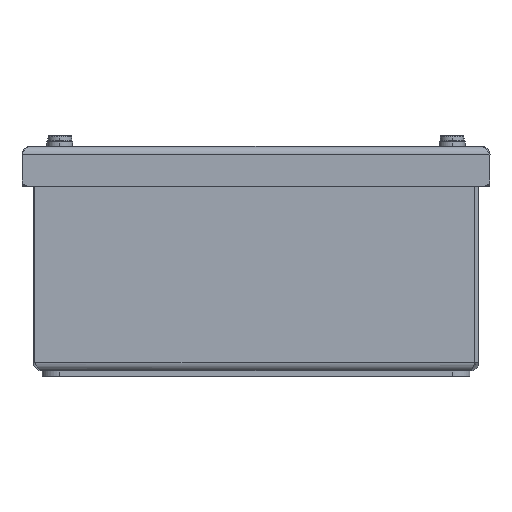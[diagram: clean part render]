
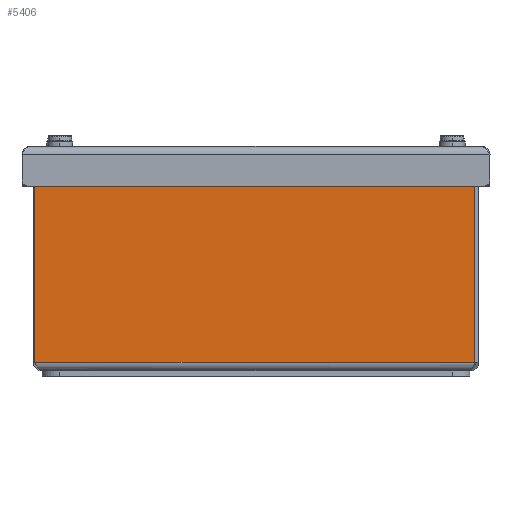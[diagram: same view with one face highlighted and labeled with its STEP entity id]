
A CAD part, left-side view. The second image highlights one B-rep face of the part: STEP entity #5406.
In plain terms, the highlighted planar face has unit normal (-1, 0, 0).
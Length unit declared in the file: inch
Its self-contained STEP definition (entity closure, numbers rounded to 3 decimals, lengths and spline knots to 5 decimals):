
#268=DIRECTION('',(0.,-1.,0.));
#269=VECTOR('',#268,6.168);
#270=CARTESIAN_POINT('',(0.,6.228,0.12));
#271=LINE('',#270,#269);
#1663=DIRECTION('',(0.,-1.,0.));
#1664=VECTOR('',#1663,5.47175);
#1665=CARTESIAN_POINT('',(0.,6.228,2.888));
#1666=LINE('',#1665,#1664);
#1751=DIRECTION('',(0.,0.,1.));
#1752=VECTOR('',#1751,0.052);
#1753=CARTESIAN_POINT('',(0.,0.75625,2.888));
#1754=LINE('',#1753,#1752);
#1758=DIRECTION('',(0.,1.,0.));
#1759=VECTOR('',#1758,0.64425);
#1760=CARTESIAN_POINT('',(0.,0.112,2.94));
#1761=LINE('',#1760,#1759);
#1765=CARTESIAN_POINT('',(0.,0.112,2.888));
#1766=DIRECTION('',(-1.,0.,0.));
#1767=DIRECTION('',(0.,-1.,0.));
#1768=AXIS2_PLACEMENT_3D('',#1765,#1766,#1767);
#1773=DIRECTION('',(0.,0.,1.));
#1774=VECTOR('',#1773,2.768);
#1775=CARTESIAN_POINT('',(0.,6.228,0.12));
#1776=LINE('',#1775,#1774);
#1822=DIRECTION('',(0.,0.,1.));
#1823=VECTOR('',#1822,2.768);
#1824=CARTESIAN_POINT('',(0.,0.06,0.12));
#1825=LINE('',#1824,#1823);
#3563=CARTESIAN_POINT('',(0.,0.75625,2.888));
#3564=CARTESIAN_POINT('',(0.,0.75625,2.94));
#3565=VERTEX_POINT('',#3563);
#3566=VERTEX_POINT('',#3564);
#3611=CARTESIAN_POINT('',(0.,0.06,2.888));
#3612=CARTESIAN_POINT('',(0.,0.112,2.94));
#3613=VERTEX_POINT('',#3611);
#3614=VERTEX_POINT('',#3612);
#3619=CARTESIAN_POINT('',(0.,0.06,0.12));
#3620=VERTEX_POINT('',#3619);
#3623=CARTESIAN_POINT('',(0.,6.228,0.12));
#3624=CARTESIAN_POINT('',(0.,6.228,2.888));
#3625=VERTEX_POINT('',#3623);
#3626=VERTEX_POINT('',#3624);
#5387=CARTESIAN_POINT('',(0.,6.25,0.));
#5388=DIRECTION('',(-1.,0.,0.));
#5389=DIRECTION('',(0.,-1.,0.));
#5390=AXIS2_PLACEMENT_3D('',#5387,#5388,#5389);
#5391=PLANE('',#5390);
#5392=ORIENTED_EDGE('',*,*,#5376,.T.);
#5394=ORIENTED_EDGE('',*,*,#5393,.T.);
#5396=ORIENTED_EDGE('',*,*,#5395,.F.);
#5398=ORIENTED_EDGE('',*,*,#5397,.F.);
#5400=ORIENTED_EDGE('',*,*,#5399,.F.);
#5401=ORIENTED_EDGE('',*,*,#4152,.F.);
#5403=ORIENTED_EDGE('',*,*,#5402,.T.);
#5404=EDGE_LOOP('',(#5392,#5394,#5396,#5398,#5400,#5401,#5403));
#5405=FACE_OUTER_BOUND('',#5404,.F.);
#1769=CIRCLE('',#1768,0.052);
#4152=EDGE_CURVE('',#3625,#3620,#271,.T.);
#5376=EDGE_CURVE('',#3626,#3565,#1666,.T.);
#5393=EDGE_CURVE('',#3565,#3566,#1754,.T.);
#5395=EDGE_CURVE('',#3614,#3566,#1761,.T.);
#5397=EDGE_CURVE('',#3613,#3614,#1769,.T.);
#5399=EDGE_CURVE('',#3620,#3613,#1825,.T.);
#5402=EDGE_CURVE('',#3625,#3626,#1776,.T.);
#5406=ADVANCED_FACE('',(#5405),#5391,.T.);
